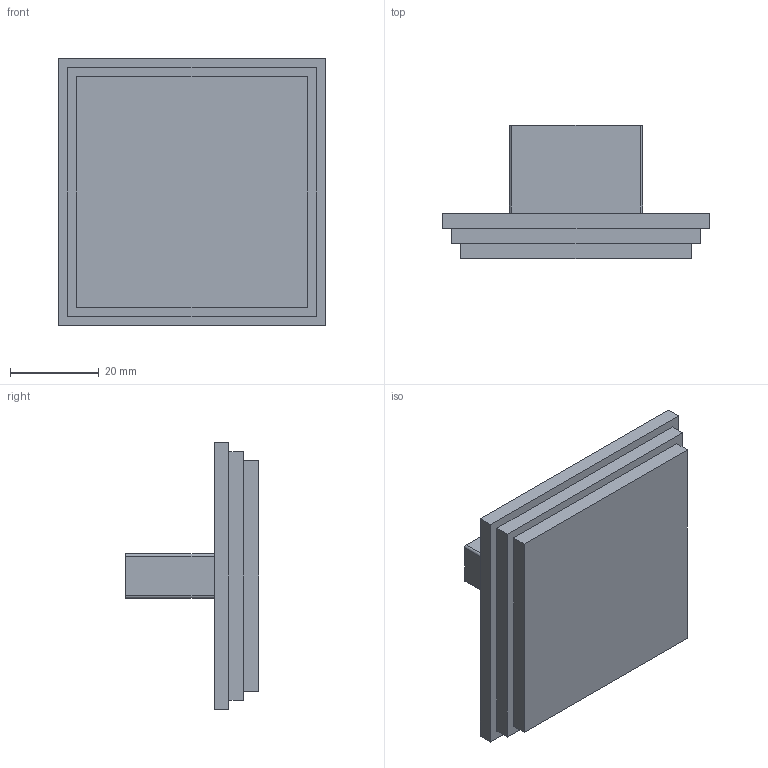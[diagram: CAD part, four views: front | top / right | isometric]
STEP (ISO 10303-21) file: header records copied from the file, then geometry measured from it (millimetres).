
FILE_DESCRIPTION( ( '' ), '1' );
FILE_NAME( 'C:/Documents and Settings/Nikhil/Desktop/Nik/Done/9113312.stp', '2013-10-23T10:21:01', ( '' ), ( '' ), ' ', ' ', ' ' );
FILE_SCHEMA( ( 'automotive_design' ) );
Length unit declared in the file: millimetre
Products named in the file (1): 1
Bounding box: 60 x 30 x 60 mm (x, y, z)
Volume: 37204.5 mm3; surface area: 11234.9 mm2
Topology: 1 solids, 1 shells, 31 faces, 72 edges, 48 vertices
Faces by surface type: plane 23, cylinder 8
Entity records: 1754 total; most frequent: STYLED_ITEM 152, PRESENTATION_STYLE_ASSIGNMENT 152, CARTESIAN_POINT 152, DIRECTION 152, COLOUR_RGB 152, ORIENTED_EDGE 144, EDGE_CURVE 72, CURVE_STYLE 72
